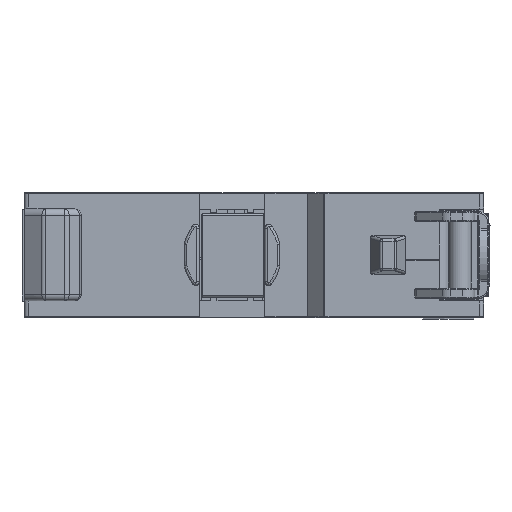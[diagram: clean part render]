
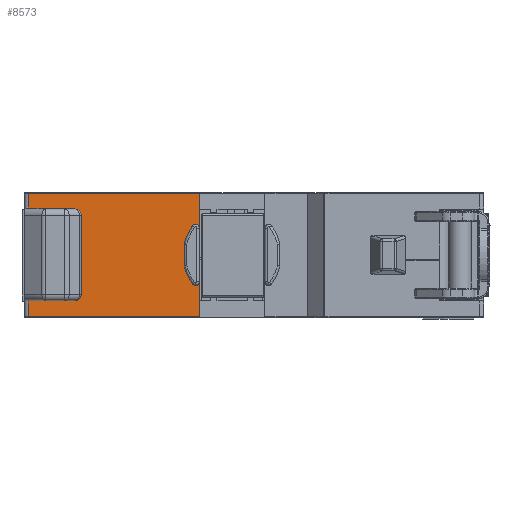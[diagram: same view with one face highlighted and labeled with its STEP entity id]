
A CAD part, top view. The second image highlights one B-rep face of the part: STEP entity #8573.
In plain terms, the highlighted planar face has unit normal (0, 0, 1).
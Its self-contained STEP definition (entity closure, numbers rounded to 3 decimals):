
#1968=FACE_OUTER_BOUND('',#11576,.T.);
#3055=LINE('',#38579,#5557);
#3810=LINE('',#40782,#6312);
#3811=LINE('',#40784,#6313);
#3852=LINE('',#40874,#6354);
#3874=LINE('',#41199,#6376);
#3896=LINE('',#41313,#6398);
#4104=LINE('',#42328,#6606);
#4110=LINE('',#42342,#6612);
#4111=LINE('',#42343,#6613);
#4112=LINE('',#42344,#6614);
#5557=VECTOR('',#30781,1.);
#6312=VECTOR('',#32484,1.);
#6313=VECTOR('',#32487,1.);
#6354=VECTOR('',#32586,1.);
#6376=VECTOR('',#32646,1.);
#6398=VECTOR('',#32745,1.);
#6606=VECTOR('',#33362,1.);
#6612=VECTOR('',#33380,1.);
#6613=VECTOR('',#33381,1.);
#6614=VECTOR('',#33382,1.);
#8573=ADVANCED_FACE('',(#1968),#9890,.F.);
#9890=PLANE('',#29109);
#11576=EDGE_LOOP('',(#15474,#15475,#15476,#15477,#15478,#15479,#15480,#15481,
#15482,#15483,#15484,#15485,#15486,#15487,#15488,#15489));
#15474=ORIENTED_EDGE('',*,*,#24986,.F.);
#15475=ORIENTED_EDGE('',*,*,#24393,.F.);
#15476=ORIENTED_EDGE('',*,*,#24401,.F.);
#15477=ORIENTED_EDGE('',*,*,#24539,.F.);
#15478=ORIENTED_EDGE('',*,*,#24399,.F.);
#15479=ORIENTED_EDGE('',*,*,#24389,.F.);
#15480=ORIENTED_EDGE('',*,*,#24987,.F.);
#15481=ORIENTED_EDGE('',*,*,#24663,.F.);
#15482=ORIENTED_EDGE('',*,*,#24617,.F.);
#15483=ORIENTED_EDGE('',*,*,#24585,.F.);
#15484=ORIENTED_EDGE('',*,*,#24463,.F.);
#15485=ORIENTED_EDGE('',*,*,#24540,.F.);
#15486=ORIENTED_EDGE('',*,*,#24436,.F.);
#15487=ORIENTED_EDGE('',*,*,#23596,.F.);
#15488=ORIENTED_EDGE('',*,*,#24988,.F.);
#15489=ORIENTED_EDGE('',*,*,#24979,.F.);
#20953=VERTEX_POINT('',#38577);
#20955=VERTEX_POINT('',#38580);
#21497=VERTEX_POINT('',#40474);
#21498=VERTEX_POINT('',#40476);
#21499=VERTEX_POINT('',#40482);
#21500=VERTEX_POINT('',#40484);
#21505=VERTEX_POINT('',#40497);
#21506=VERTEX_POINT('',#40501);
#21528=VERTEX_POINT('',#40571);
#21536=VERTEX_POINT('',#40628);
#21537=VERTEX_POINT('',#40630);
#21599=VERTEX_POINT('',#40875);
#21619=VERTEX_POINT('',#41200);
#21641=VERTEX_POINT('',#41310);
#21803=VERTEX_POINT('',#42182);
#21846=VERTEX_POINT('',#42327);
#23596=EDGE_CURVE('',#20953,#20955,#3055,.T.);
#24389=EDGE_CURVE('',#21498,#21497,#27567,.T.);
#24393=EDGE_CURVE('',#21500,#21499,#27568,.T.);
#24399=EDGE_CURVE('',#21497,#21505,#27569,.T.);
#24401=EDGE_CURVE('',#21506,#21500,#27570,.T.);
#24436=EDGE_CURVE('',#20955,#21528,#27573,.T.);
#24463=EDGE_CURVE('',#21536,#21537,#27578,.T.);
#24539=EDGE_CURVE('',#21505,#21506,#3810,.T.);
#24540=EDGE_CURVE('',#21528,#21536,#3811,.T.);
#24585=EDGE_CURVE('',#21537,#21599,#3852,.T.);
#24617=EDGE_CURVE('',#21599,#21619,#3874,.T.);
#24663=EDGE_CURVE('',#21619,#21641,#3896,.T.);
#24979=EDGE_CURVE('',#21846,#21803,#4104,.T.);
#24986=EDGE_CURVE('',#21499,#21846,#4110,.T.);
#24987=EDGE_CURVE('',#21641,#21498,#4111,.T.);
#24988=EDGE_CURVE('',#21803,#20953,#4112,.T.);
#27567=CIRCLE('',#28715,0.3);
#27568=CIRCLE('',#28718,0.3);
#27569=CIRCLE('',#28721,3.9);
#27570=CIRCLE('',#28723,3.9);
#27573=CIRCLE('',#28738,0.5);
#27578=CIRCLE('',#28764,0.5);
#28715=AXIS2_PLACEMENT_3D('',#40477,#32163,#32164);
#28718=AXIS2_PLACEMENT_3D('',#40485,#32172,#32173);
#28721=AXIS2_PLACEMENT_3D('',#40498,#32183,#32184);
#28723=AXIS2_PLACEMENT_3D('',#40502,#32188,#32189);
#28738=AXIS2_PLACEMENT_3D('',#40570,#32250,#32251);
#28764=AXIS2_PLACEMENT_3D('',#40629,#32322,#32323);
#29109=AXIS2_PLACEMENT_3D('',#42345,#33383,#33384);
#30781=DIRECTION('',(1.,0.,0.));
#32163=DIRECTION('',(0.,0.,1.));
#32164=DIRECTION('',(0.,1.,0.));
#32172=DIRECTION('',(0.,0.,1.));
#32173=DIRECTION('',(0.,1.,0.));
#32183=DIRECTION('',(0.,0.,1.));
#32184=DIRECTION('',(0.,-1.,0.));
#32188=DIRECTION('',(0.,0.,1.));
#32189=DIRECTION('',(0.,-1.,0.));
#32250=DIRECTION('',(0.,0.,1.));
#32251=DIRECTION('',(0.,1.,0.));
#32322=DIRECTION('',(0.,0.,1.));
#32323=DIRECTION('',(0.,1.,0.));
#32484=DIRECTION('',(0.,-1.,0.));
#32487=DIRECTION('',(0.,1.,0.));
#32586=DIRECTION('',(-1.,0.,0.));
#32646=DIRECTION('',(0.,1.,0.));
#32745=DIRECTION('',(1.,0.,0.));
#33362=DIRECTION('',(-1.,0.,0.));
#33380=DIRECTION('',(0.,-1.,0.));
#33381=DIRECTION('',(0.,-1.,0.));
#33382=DIRECTION('',(0.,1.,0.));
#33383=DIRECTION('',(0.,0.,-1.));
#33384=DIRECTION('',(0.,1.,0.));
#38577=CARTESIAN_POINT('',(-14.946,7.479,33.484));
#38579=CARTESIAN_POINT('',(-15.246,7.479,33.484));
#38580=CARTESIAN_POINT('',(-13.046,7.479,33.484));
#40474=CARTESIAN_POINT('',(-1.887,13.439,33.484));
#40476=CARTESIAN_POINT('',(-1.346,13.262,33.484));
#40477=CARTESIAN_POINT('',(-1.646,13.262,33.484));
#40482=CARTESIAN_POINT('',(-1.346,8.995,33.484));
#40484=CARTESIAN_POINT('',(-1.887,8.818,33.484));
#40485=CARTESIAN_POINT('',(-1.646,8.995,33.484));
#40497=CARTESIAN_POINT('',(-2.546,12.006,33.484));
#40498=CARTESIAN_POINT('',(1.254,11.129,33.484));
#40501=CARTESIAN_POINT('',(-2.546,10.251,33.484));
#40502=CARTESIAN_POINT('',(1.254,11.129,33.484));
#40570=CARTESIAN_POINT('',(-13.046,7.979,33.484));
#40571=CARTESIAN_POINT('',(-12.546,7.979,33.484));
#40628=CARTESIAN_POINT('',(-12.546,14.279,33.484));
#40629=CARTESIAN_POINT('',(-13.046,14.279,33.484));
#40630=CARTESIAN_POINT('',(-13.046,14.779,33.484));
#40782=CARTESIAN_POINT('',(-2.546,11.129,33.484));
#40784=CARTESIAN_POINT('',(-12.546,11.129,33.484));
#40874=CARTESIAN_POINT('',(-15.246,14.779,33.484));
#40875=CARTESIAN_POINT('',(-14.946,14.779,33.484));
#41199=CARTESIAN_POINT('',(-14.946,11.779,33.484));
#41200=CARTESIAN_POINT('',(-14.946,16.029,33.484));
#41310=CARTESIAN_POINT('',(-1.346,16.029,33.484));
#41313=CARTESIAN_POINT('',(3.004,16.029,33.484));
#42182=CARTESIAN_POINT('',(-14.946,6.229,33.484));
#42327=CARTESIAN_POINT('',(-1.346,6.229,33.484));
#42328=CARTESIAN_POINT('',(3.004,6.229,33.484));
#42342=CARTESIAN_POINT('',(-1.346,7.729,33.484));
#42343=CARTESIAN_POINT('',(-1.346,11.129,33.484));
#42344=CARTESIAN_POINT('',(-14.946,6.829,33.484));
#42345=CARTESIAN_POINT('',(-15.246,7.479,33.484));
